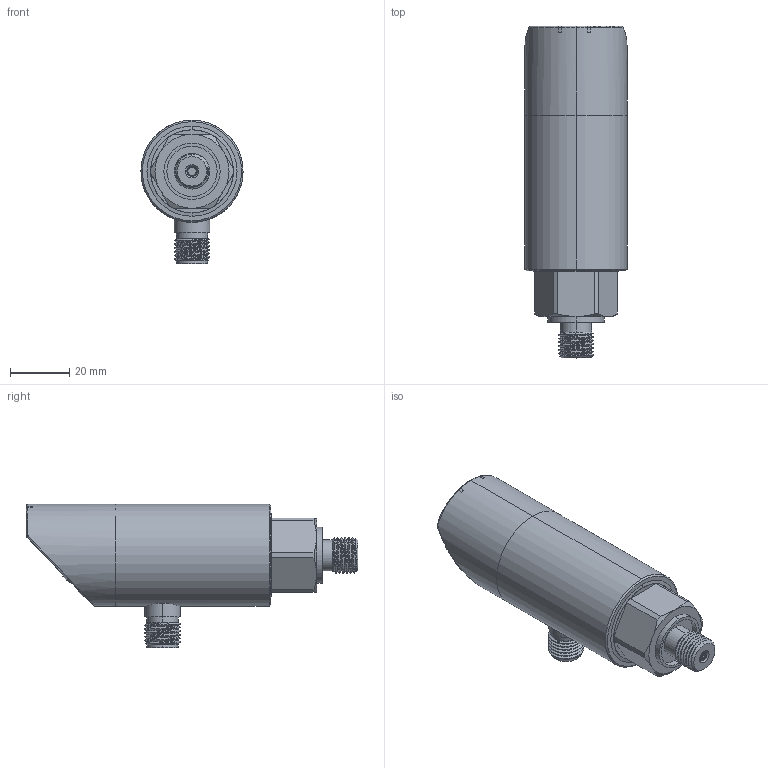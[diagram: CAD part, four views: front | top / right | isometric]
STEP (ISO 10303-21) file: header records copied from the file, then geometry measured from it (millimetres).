
FILE_DESCRIPTION (( 'STEP AP214' ), '1' );
FILE_NAME ('BPD2P50.STEP', '2024-12-02T05:37:59', ( '' ), ( '' ), 'SwSTEP 2.0', 'SolidWorks 2022', '' );
FILE_SCHEMA (( 'AUTOMOTIVE_DESIGN' ));
Length unit declared in the file: millimetre
Products named in the file (1): BPD2P50
Bounding box: 34.5 x 112.1 x 48.5 mm (x, y, z)
Volume: 80840.7 mm3; surface area: 17396.6 mm2
Topology: 5 solids, 5 shells, 253 faces, 643 edges, 416 vertices
Faces by surface type: plane 112, cylinder 88, cone 19, bspline 19, sphere 9, torus 6
Entity records: 13506 total; most frequent: CARTESIAN_POINT 6734, ORIENTED_EDGE 1254, DIRECTION 1036, EDGE_CURVE 627, VERTEX_POINT 408, AXIS2_PLACEMENT_3D 360, LINE 316, VECTOR 316
